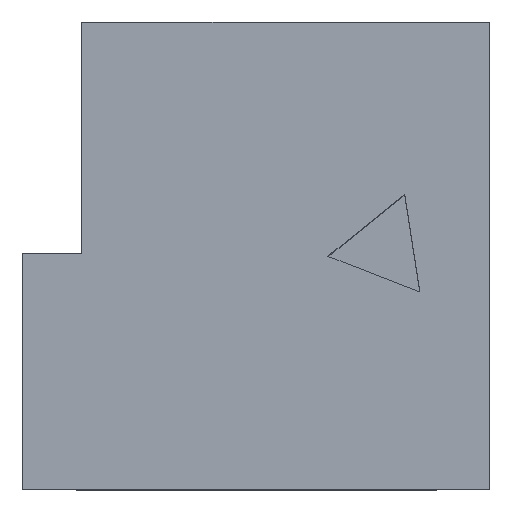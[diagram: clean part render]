
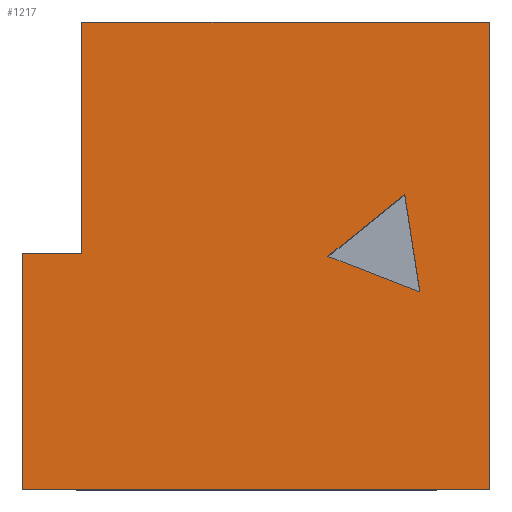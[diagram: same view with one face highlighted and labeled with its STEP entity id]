
A CAD part, top view. The second image highlights one B-rep face of the part: STEP entity #1217.
In plain terms, the highlighted planar face has unit normal (0, 0, 1).
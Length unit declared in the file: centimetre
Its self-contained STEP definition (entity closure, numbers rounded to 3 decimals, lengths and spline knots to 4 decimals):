
#14 = DIRECTION ( 'NONE',  ( 1., 0., 0. ) ) ;
#18 = VECTOR ( 'NONE', #1384, 100. ) ;
#27 = DIRECTION ( 'NONE',  ( 0., 0., 1. ) ) ;
#36 = ORIENTED_EDGE ( 'NONE', *, *, #1237, .F. ) ;
#37 = LINE ( 'NONE', #1367, #1747 ) ;
#39 = DIRECTION ( 'NONE',  ( 0., -1., 0. ) ) ;
#57 = CARTESIAN_POINT ( 'NONE',  ( 850.7287, 422.3033, 1000. ) ) ;
#82 = ORIENTED_EDGE ( 'NONE', *, *, #558, .T. ) ;
#87 = VECTOR ( 'NONE', #39, 100. ) ;
#142 = VECTOR ( 'NONE', #1142, 100. ) ;
#157 = VECTOR ( 'NONE', #14, 100. ) ;
#161 = VERTEX_POINT ( 'NONE', #1551 ) ;
#166 = LINE ( 'NONE', #1257, #87 ) ;
#174 = EDGE_CURVE ( 'NONE', #509, #1393, #189, .T. ) ;
#189 = LINE ( 'NONE', #1264, #142 ) ;
#191 = CARTESIAN_POINT ( 'NONE',  ( 0., 505.4324, 1000. ) ) ;
#216 = ORIENTED_EDGE ( 'NONE', *, *, #687, .F. ) ;
#238 = LINE ( 'NONE', #1283, #359 ) ;
#288 = FACE_OUTER_BOUND ( 'NONE', #445, .T. ) ;
#293 = EDGE_LOOP ( 'NONE', ( #1026, #680, #36 ) ) ;
#301 = LINE ( 'NONE', #843, #18 ) ;
#324 = VERTEX_POINT ( 'NONE', #764 ) ;
#359 = VECTOR ( 'NONE', #937, 100. ) ;
#400 = CARTESIAN_POINT ( 'NONE',  ( 0., 0., 1000. ) ) ;
#422 = LINE ( 'NONE', #830, #673 ) ;
#445 = EDGE_LOOP ( 'NONE', ( #845, #216, #82, #1453, #1412, #1424 ) ) ;
#509 = VERTEX_POINT ( 'NONE', #964 ) ;
#558 = EDGE_CURVE ( 'NONE', #1146, #740, #166, .T. ) ;
#563 = DIRECTION ( 'NONE',  ( 1., 0., 0. ) ) ;
#632 = VERTEX_POINT ( 'NONE', #1553 ) ;
#673 = VECTOR ( 'NONE', #1096, 100. ) ;
#680 = ORIENTED_EDGE ( 'NONE', *, *, #1363, .F. ) ;
#687 = EDGE_CURVE ( 'NONE', #1146, #509, #1407, .T. ) ;
#691 = FACE_BOUND ( 'NONE', #293, .T. ) ;
#711 = CARTESIAN_POINT ( 'NONE',  ( 126.9587, 1000., 1000. ) ) ;
#718 = LINE ( 'NONE', #57, #1031 ) ;
#731 = DIRECTION ( 'NONE',  ( 1., 0., 0. ) ) ;
#740 = VERTEX_POINT ( 'NONE', #1052 ) ;
#764 = CARTESIAN_POINT ( 'NONE',  ( 1000., 1000., 1000. ) ) ;
#787 = CARTESIAN_POINT ( 'NONE',  ( 0., 505.4324, 1000. ) ) ;
#788 = CARTESIAN_POINT ( 'NONE',  ( 850.7287, 422.3033, 1000. ) ) ;
#830 = CARTESIAN_POINT ( 'NONE',  ( 818.3764, 630.9565, 1000. ) ) ;
#840 = DIRECTION ( 'NONE',  ( 0.932, -0.361, 0. ) ) ;
#843 = CARTESIAN_POINT ( 'NONE',  ( 1000., 1000., 1000. ) ) ;
#845 = ORIENTED_EDGE ( 'NONE', *, *, #174, .F. ) ;
#901 = AXIS2_PLACEMENT_3D ( 'NONE', #1373, #27, #563 ) ;
#912 = VERTEX_POINT ( 'NONE', #1470 ) ;
#922 = VERTEX_POINT ( 'NONE', #788 ) ;
#937 = DIRECTION ( 'NONE',  ( -1., 0., 0. ) ) ;
#964 = CARTESIAN_POINT ( 'NONE',  ( 126.9587, 505.4324, 1000. ) ) ;
#1026 = ORIENTED_EDGE ( 'NONE', *, *, #1181, .F. ) ;
#1031 = VECTOR ( 'NONE', #1377, 100. ) ;
#1052 = CARTESIAN_POINT ( 'NONE',  ( 0., 0., 1000. ) ) ;
#1067 = EDGE_CURVE ( 'NONE', #324, #1393, #238, .T. ) ;
#1069 = EDGE_CURVE ( 'NONE', #740, #161, #1358, .T. ) ;
#1096 = DIRECTION ( 'NONE',  ( -0.779, -0.627, 0. ) ) ;
#1142 = DIRECTION ( 'NONE',  ( 0., 1., 0. ) ) ;
#1146 = VERTEX_POINT ( 'NONE', #787 ) ;
#1181 = EDGE_CURVE ( 'NONE', #632, #912, #422, .T. ) ;
#1213 = VECTOR ( 'NONE', #731, 100. ) ;
#1217 = ADVANCED_FACE ( 'NONE', ( #288, #691 ), #1238, .T. ) ;
#1237 = EDGE_CURVE ( 'NONE', #912, #922, #37, .T. ) ;
#1238 = PLANE ( 'NONE',  #901 ) ;
#1257 = CARTESIAN_POINT ( 'NONE',  ( 0., 1000., 1000. ) ) ;
#1264 = CARTESIAN_POINT ( 'NONE',  ( 126.9587, 505.4324, 1000. ) ) ;
#1283 = CARTESIAN_POINT ( 'NONE',  ( 0., 1000., 1000. ) ) ;
#1358 = LINE ( 'NONE', #400, #157 ) ;
#1363 = EDGE_CURVE ( 'NONE', #922, #632, #718, .T. ) ;
#1367 = CARTESIAN_POINT ( 'NONE',  ( 653.8536, 498.6119, 1000. ) ) ;
#1373 = CARTESIAN_POINT ( 'NONE',  ( 0., 0., 1000. ) ) ;
#1377 = DIRECTION ( 'NONE',  ( -0.153, 0.988, 0. ) ) ;
#1384 = DIRECTION ( 'NONE',  ( 0., 1., 0. ) ) ;
#1393 = VERTEX_POINT ( 'NONE', #711 ) ;
#1394 = EDGE_CURVE ( 'NONE', #161, #324, #301, .T. ) ;
#1407 = LINE ( 'NONE', #191, #1213 ) ;
#1412 = ORIENTED_EDGE ( 'NONE', *, *, #1394, .T. ) ;
#1424 = ORIENTED_EDGE ( 'NONE', *, *, #1067, .T. ) ;
#1453 = ORIENTED_EDGE ( 'NONE', *, *, #1069, .T. ) ;
#1470 = CARTESIAN_POINT ( 'NONE',  ( 653.8536, 498.6119, 1000. ) ) ;
#1551 = CARTESIAN_POINT ( 'NONE',  ( 1000., 0., 1000. ) ) ;
#1553 = CARTESIAN_POINT ( 'NONE',  ( 818.3764, 630.9565, 1000. ) ) ;
#1747 = VECTOR ( 'NONE', #840, 100. ) ;
